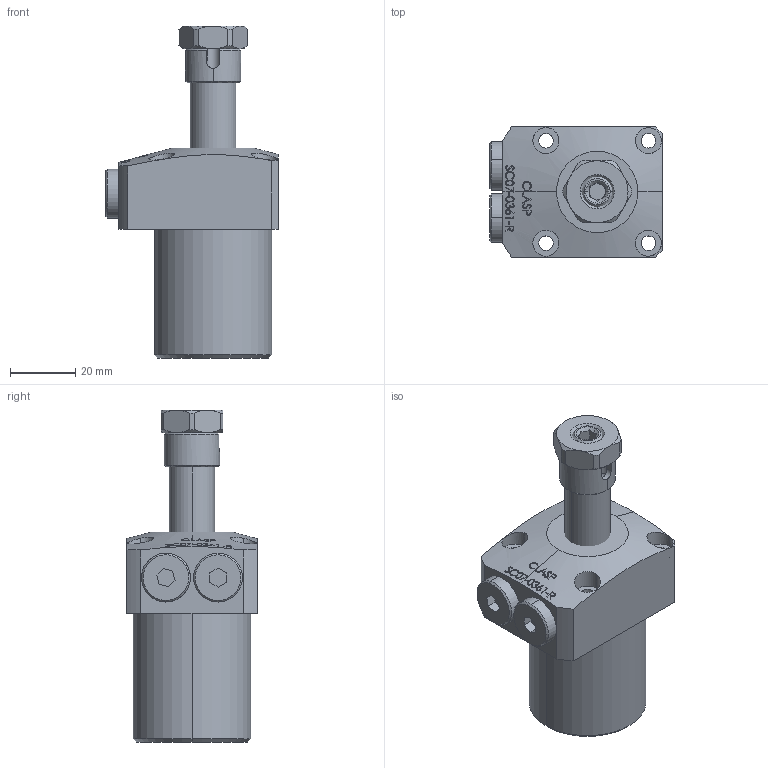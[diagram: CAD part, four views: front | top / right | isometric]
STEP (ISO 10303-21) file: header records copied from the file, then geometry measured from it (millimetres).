
FILE_DESCRIPTION (( 'STEP AP203' ), '1' );
FILE_NAME ('SC07-0361-R.STEP', '2022-07-05T17:47:02', ( '' ), ( '' ), 'SwSTEP 2.0', 'SolidWorks 2017', '' );
FILE_SCHEMA (( 'CONFIG_CONTROL_DESIGN' ));
Length unit declared in the file: millimetre
Products named in the file (6): SC-07-0361-R-03-nut; SC07-0361-R; SC-07-0361-R BODY; SC-07-0361-R-Piston; SC-07-0361-R-05 plug; SC-07-0361-R-04 sleeve
Assembly tree (6 placements, depth 2):
  SC07-0361-R
    SC-07-0361-R BODY
    SC-07-0361-R-Piston
    SC-07-0361-R-05 plug  x2
    SC-07-0361-R-04 sleeve
    SC-07-0361-R-03-nut
Bounding box: 53 x 40 x 102 mm (x, y, z)
Volume: 93497.2 mm3; surface area: 21363.9 mm2
Topology: 6 solids, 6 shells, 368 faces, 941 edges, 613 vertices
Faces by surface type: plane 155, bspline 100, cylinder 62, cone 49, sphere 2
Entity records: 16965 total; most frequent: CARTESIAN_POINT 8489, ORIENTED_EDGE 1818, DIRECTION 1256, EDGE_CURVE 909, VERTEX_POINT 593, AXIS2_PLACEMENT_3D 427, LINE 402, VECTOR 402
